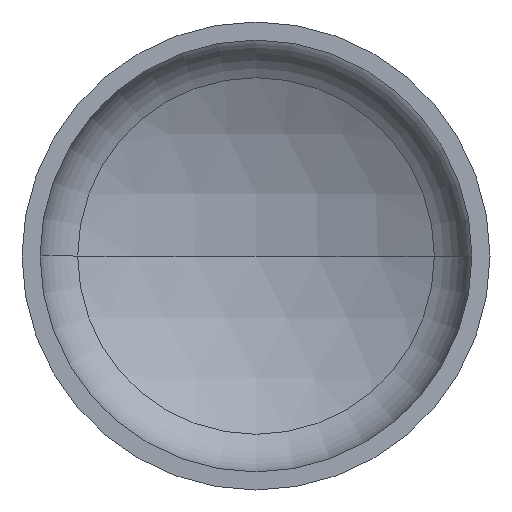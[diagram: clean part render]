
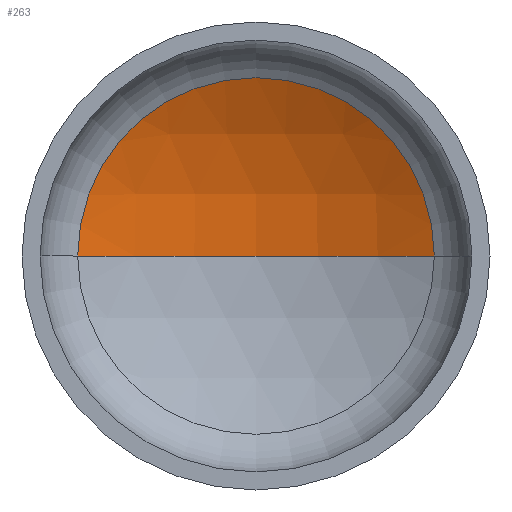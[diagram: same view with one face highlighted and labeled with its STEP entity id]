
A CAD part, front view. The second image highlights one B-rep face of the part: STEP entity #263.
In plain terms, the highlighted spherical face has radius 1200 mm.
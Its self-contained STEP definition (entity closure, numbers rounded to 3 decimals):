
#1 = CARTESIAN_POINT ( 'NONE',  ( 0., -732.91, 0. ) ) ;
#4 = CARTESIAN_POINT ( 'NONE',  ( 0., 322.236, 0. ) ) ;
#5 = AXIS2_PLACEMENT_3D ( 'NONE', #1, #335, #244 ) ;
#6 = AXIS2_PLACEMENT_3D ( 'NONE', #89, #124, #133 ) ;
#24 = VERTEX_POINT ( 'NONE', #300 ) ;
#25 = EDGE_LOOP ( 'NONE', ( #172, #121, #147 ) ) ;
#26 = AXIS2_PLACEMENT_3D ( 'NONE', #243, #191, #36 ) ;
#36 = DIRECTION ( 'NONE',  ( -1., 0., 0. ) ) ;
#39 = AXIS2_PLACEMENT_3D ( 'NONE', #4, #144, #407 ) ;
#89 = CARTESIAN_POINT ( 'NONE',  ( 0., -732.91, 0. ) ) ;
#94 = EDGE_CURVE ( 'NONE', #103, #155, #113, .T. ) ;
#103 = VERTEX_POINT ( 'NONE', #307 ) ;
#113 = CIRCLE ( 'NONE', #39, 571.546 ) ;
#121 = ORIENTED_EDGE ( 'NONE', *, *, #360, .T. ) ;
#124 = DIRECTION ( 'NONE',  ( 0., 0., 1. ) ) ;
#133 = DIRECTION ( 'NONE',  ( 1., 0., 0. ) ) ;
#144 = DIRECTION ( 'NONE',  ( 0., -1., 0. ) ) ;
#147 = ORIENTED_EDGE ( 'NONE', *, *, #94, .T. ) ;
#155 = VERTEX_POINT ( 'NONE', #215 ) ;
#172 = ORIENTED_EDGE ( 'NONE', *, *, #366, .F. ) ;
#191 = DIRECTION ( 'NONE',  ( 0., 0., -1. ) ) ;
#215 = CARTESIAN_POINT ( 'NONE',  ( -571.546, 322.236, 0. ) ) ;
#240 = CIRCLE ( 'NONE', #5, 1200. ) ;
#243 = CARTESIAN_POINT ( 'NONE',  ( 0., -732.91, 0. ) ) ;
#244 = DIRECTION ( 'NONE',  ( -1., 0., 0. ) ) ;
#256 = FACE_OUTER_BOUND ( 'NONE', #25, .T. ) ;
#263 = ADVANCED_FACE ( 'NONE', ( #256 ), #322, .F. ) ;
#286 = CIRCLE ( 'NONE', #6, 1200. ) ;
#300 = CARTESIAN_POINT ( 'NONE',  ( 0., 467.09, 0. ) ) ;
#307 = CARTESIAN_POINT ( 'NONE',  ( 571.546, 322.236, 0. ) ) ;
#322 = SPHERICAL_SURFACE ( 'NONE', #26, 1200. ) ;
#335 = DIRECTION ( 'NONE',  ( 0., 0., -1. ) ) ;
#360 = EDGE_CURVE ( 'NONE', #24, #103, #240, .T. ) ;
#366 = EDGE_CURVE ( 'NONE', #24, #155, #286, .T. ) ;
#407 = DIRECTION ( 'NONE',  ( 1., 0., 0. ) ) ;
